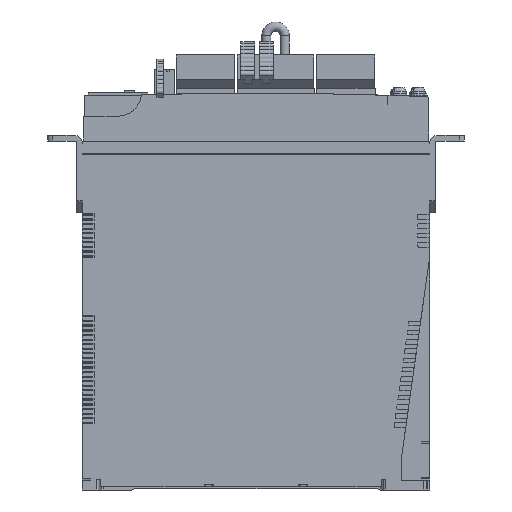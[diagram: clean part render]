
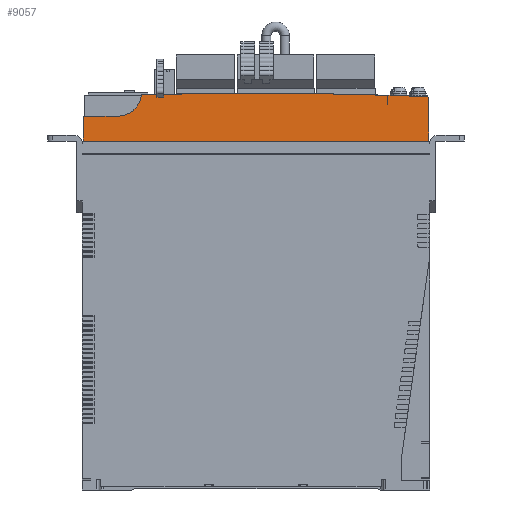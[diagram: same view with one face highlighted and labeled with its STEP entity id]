
A CAD part, left-side view. The second image highlights one B-rep face of the part: STEP entity #9057.
In plain terms, the highlighted planar face has unit normal (-1, 0, 0.018).
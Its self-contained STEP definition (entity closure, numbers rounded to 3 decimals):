
#9057 = ADVANCED_FACE( '', ( #19351 ), #19352, .T. );
#19351 = FACE_OUTER_BOUND( '', #30911, .T. );
#19352 = PLANE( '', #30912 );
#30911 = EDGE_LOOP( '', ( #58995, #58996, #58997, #58998, #58999, #59000, #59001, #59002, #59003, #59004, #59005 ) );
#30912 = AXIS2_PLACEMENT_3D( '', #59006, #59007, #59008 );
#58995 = ORIENTED_EDGE( '', *, *, #79718, .T. );
#58996 = ORIENTED_EDGE( '', *, *, #76059, .T. );
#58997 = ORIENTED_EDGE( '', *, *, #79867, .T. );
#58998 = ORIENTED_EDGE( '', *, *, #75034, .T. );
#58999 = ORIENTED_EDGE( '', *, *, #77175, .T. );
#59000 = ORIENTED_EDGE( '', *, *, #79238, .T. );
#59001 = ORIENTED_EDGE( '', *, *, #75407, .F. );
#59002 = ORIENTED_EDGE( '', *, *, #78711, .T. );
#59003 = ORIENTED_EDGE( '', *, *, #79868, .T. );
#59004 = ORIENTED_EDGE( '', *, *, #76916, .F. );
#59005 = ORIENTED_EDGE( '', *, *, #79869, .F. );
#59006 = CARTESIAN_POINT( '', ( -41.844, 150., 0. ) );
#59007 = DIRECTION( '', ( -1., 0., 0.017 ) );
#59008 = DIRECTION( '', ( 0.017, 0., 1. ) );
#75034 = EDGE_CURVE( '', #93189, #93190, #93191, .T. );
#75407 = EDGE_CURVE( '', #93745, #93747, #93748, .T. );
#76059 = EDGE_CURVE( '', #94777, #94778, #94779, .T. );
#76916 = EDGE_CURVE( '', #95963, #95965, #95966, .T. );
#77175 = EDGE_CURVE( '', #93190, #96309, #96310, .T. );
#78711 = EDGE_CURVE( '', #93745, #98326, #98327, .T. );
#79238 = EDGE_CURVE( '', #96309, #93747, #98987, .T. );
#79718 = EDGE_CURVE( '', #99551, #94777, #99552, .T. );
#79867 = EDGE_CURVE( '', #94778, #93189, #99725, .T. );
#79868 = EDGE_CURVE( '', #98326, #95965, #99726, .T. );
#79869 = EDGE_CURVE( '', #99551, #95963, #99727, .T. );
#93189 = VERTEX_POINT( '', #117553 );
#93190 = VERTEX_POINT( '', #117554 );
#93191 = ELLIPSE( '', #117555, 0.5, 0.5 );
#93745 = VERTEX_POINT( '', #118324 );
#93747 = VERTEX_POINT( '', #118327 );
#93748 = LINE( '', #118328, #118329 );
#94777 = VERTEX_POINT( '', #119708 );
#94778 = VERTEX_POINT( '', #119709 );
#94779 = LINE( '', #119710, #119711 );
#95963 = VERTEX_POINT( '', #121381 );
#95965 = VERTEX_POINT( '', #121384 );
#95966 = ELLIPSE( '', #121385, 10.152, 10.15 );
#96309 = VERTEX_POINT( '', #121939 );
#96310 = ELLIPSE( '', #121940, 1856.252, 1855.969 );
#98326 = VERTEX_POINT( '', #124869 );
#98327 = LINE( '', #124870, #124871 );
#98987 = LINE( '', #125817, #125818 );
#99551 = VERTEX_POINT( '', #126609 );
#99552 = LINE( '', #126610, #126611 );
#99725 = LINE( '', #126875, #126876 );
#99726 = ELLIPSE( '', #126877, 1856.252, 1855.969 );
#99727 = LINE( '', #126878, #126879 );
#117553 = CARTESIAN_POINT( '', ( -41.878, 0.622, -1.963 ) );
#117554 = CARTESIAN_POINT( '', ( -41.869, 1.102, -1.472 ) );
#117555 = AXIS2_PLACEMENT_3D( '', #137774, #137775, #137776 );
#118324 = CARTESIAN_POINT( '', ( -41.931, 18.07, -5. ) );
#118327 = CARTESIAN_POINT( '', ( -41.931, 18., -5. ) );
#118328 = CARTESIAN_POINT( '', ( -41.931, 17.5, -5. ) );
#118329 = VECTOR( '', #138193, 1000. );
#119708 = CARTESIAN_POINT( '', ( -42.204, 149.704, -20.65 ) );
#119709 = CARTESIAN_POINT( '', ( -42.204, 0.296, -20.65 ) );
#119710 = CARTESIAN_POINT( '', ( -42.204, 150., -20.65 ) );
#119711 = VECTOR( '', #139253, 1000. );
#121381 = CARTESIAN_POINT( '', ( -42.016, 134.524, -9.878 ) );
#121384 = CARTESIAN_POINT( '', ( -41.855, 124.563, -0.662 ) );
#121385 = AXIS2_PLACEMENT_3D( '', #140169, #140170, #140171 );
#121939 = CARTESIAN_POINT( '', ( -41.859, 18., -0.875 ) );
#121940 = AXIS2_PLACEMENT_3D( '', #140430, #140431, #140432 );
#124869 = CARTESIAN_POINT( '', ( -41.859, 18.07, -0.873 ) );
#124870 = CARTESIAN_POINT( '', ( -41.928, 18.07, -4.862 ) );
#124871 = VECTOR( '', #141970, 1000. );
#125817 = CARTESIAN_POINT( '', ( -41.931, 18., -5.01 ) );
#125818 = VECTOR( '', #142467, 1000. );
#126609 = CARTESIAN_POINT( '', ( -42.02, 149.52, -10.094 ) );
#126610 = CARTESIAN_POINT( '', ( -42.178, 149.678, -19.172 ) );
#126611 = VECTOR( '', #142862, 1000. );
#126875 = CARTESIAN_POINT( '', ( -41.852, 0.648, -0.491 ) );
#126876 = VECTOR( '', #142984, 1000. );
#126877 = AXIS2_PLACEMENT_3D( '', #142985, #142986, #142987 );
#126878 = CARTESIAN_POINT( '', ( -42.016, 134.502, -9.878 ) );
#126879 = VECTOR( '', #142988, 1000. );
#137774 = CARTESIAN_POINT( '', ( -41.878, 1.122, -1.971 ) );
#137775 = DIRECTION( '', ( -1., 0., 0.017 ) );
#137776 = DIRECTION( '', ( -0.017, 0., -1. ) );
#138193 = DIRECTION( '', ( 0., -1., 0. ) );
#139253 = DIRECTION( '', ( 0., -1., 0. ) );
#140169 = CARTESIAN_POINT( '', ( -41.839, 134.67, 0.271 ) );
#140170 = DIRECTION( '', ( -1., 0., 0.017 ) );
#140171 = DIRECTION( '', ( -0.017, 0., -1. ) );
#140430 = CARTESIAN_POINT( '', ( -74.24, 75., -1855.969 ) );
#140431 = DIRECTION( '', ( -1., 0., 0.017 ) );
#140432 = DIRECTION( '', ( -0.017, 0., -1. ) );
#141970 = DIRECTION( '', ( 0.017, 0., 1. ) );
#142467 = DIRECTION( '', ( -0.017, 0., -1. ) );
#142862 = DIRECTION( '', ( -0.017, 0.017, -1. ) );
#142984 = DIRECTION( '', ( 0.017, 0.017, 1. ) );
#142985 = CARTESIAN_POINT( '', ( -74.24, 75., -1855.969 ) );
#142986 = DIRECTION( '', ( -1., 0., 0.017 ) );
#142987 = DIRECTION( '', ( -0.017, 0., -1. ) );
#142988 = DIRECTION( '', ( 0., -1., 0.014 ) );
